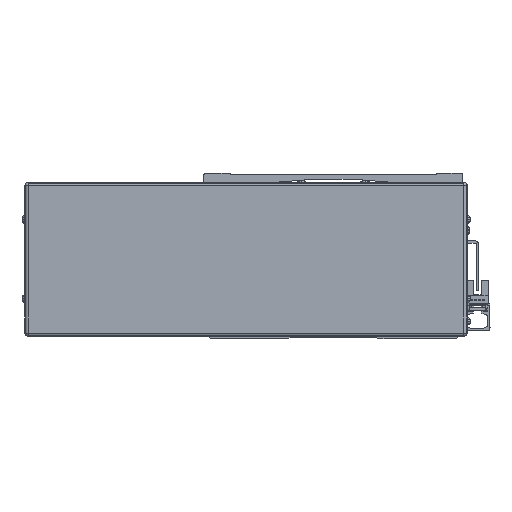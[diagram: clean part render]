
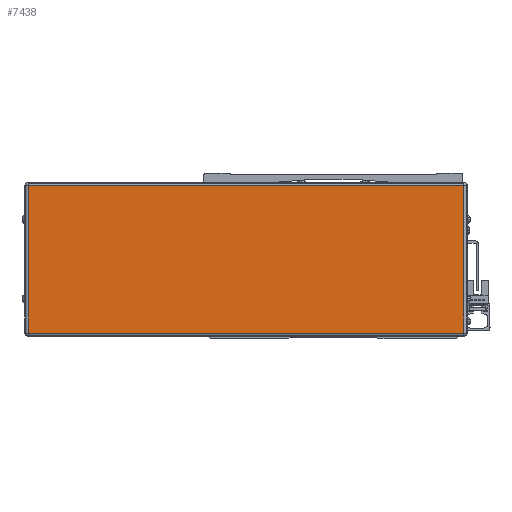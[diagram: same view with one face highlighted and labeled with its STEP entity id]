
A CAD part, front view. The second image highlights one B-rep face of the part: STEP entity #7438.
In plain terms, the highlighted planar face has unit normal (0, -1, 0).
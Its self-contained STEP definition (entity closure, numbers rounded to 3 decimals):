
#7438=ADVANCED_FACE('',(#15056),#15057,.F.);
#15056=FACE_OUTER_BOUND('',#25083,.T.);
#15057=PLANE('',#25084);
#25083=EDGE_LOOP('',(#46841,#46842,#46843,#46844));
#25084=AXIS2_PLACEMENT_3D('',#46845,#46846,#46847);
#46841=ORIENTED_EDGE('',*,*,#54170,.T.);
#46842=ORIENTED_EDGE('',*,*,#54773,.T.);
#46843=ORIENTED_EDGE('',*,*,#55889,.T.);
#46844=ORIENTED_EDGE('',*,*,#56068,.T.);
#46845=CARTESIAN_POINT('',(-655.,127.222,-2.));
#46846=DIRECTION('',(0.,1.0,0.));
#46847=DIRECTION('',(-1.0,0.,0.));
#54170=EDGE_CURVE('',#66724,#66182,#66725,.T.);
#54773=EDGE_CURVE('',#66182,#67252,#67532,.T.);
#55889=EDGE_CURVE('',#67252,#63091,#68883,.T.);
#56068=EDGE_CURVE('',#63091,#66724,#69083,.T.);
#63091=VERTEX_POINT('',#79097);
#66182=VERTEX_POINT('',#83499);
#66724=VERTEX_POINT('',#84324);
#66725=LINE('',#84325,#84326);
#67252=VERTEX_POINT('',#85104);
#67532=LINE('',#85493,#85494);
#68883=LINE('',#87638,#87639);
#69083=LINE('',#87921,#87922);
#79097=CARTESIAN_POINT('',(-517.9,127.222,-48.5));
#83499=CARTESIAN_POINT('',(-792.1,127.222,44.5));
#84324=CARTESIAN_POINT('',(-517.9,127.222,44.5));
#84325=CARTESIAN_POINT('',(-655.,127.222,44.5));
#84326=VECTOR('',#96806,10.0);
#85104=CARTESIAN_POINT('',(-792.1,127.222,-48.5));
#85493=CARTESIAN_POINT('',(-792.1,127.222,-2.));
#85494=VECTOR('',#97430,10.0);
#87638=CARTESIAN_POINT('',(-655.,127.222,-48.5));
#87639=VECTOR('',#98480,10.0);
#87921=CARTESIAN_POINT('',(-517.9,127.222,-2.));
#87922=VECTOR('',#98610,10.0);
#96806=DIRECTION('',(-1.0,0.,0.));
#97430=DIRECTION('',(0.,0.,-1.0));
#98480=DIRECTION('',(1.0,0.,0.));
#98610=DIRECTION('',(0.,0.,1.0));
